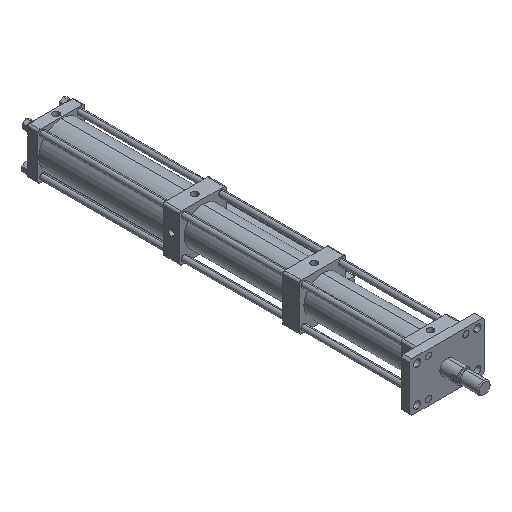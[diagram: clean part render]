
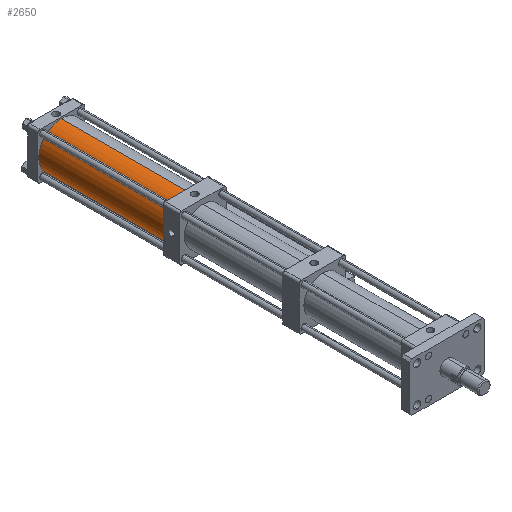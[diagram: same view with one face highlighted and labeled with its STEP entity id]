
A CAD part, isometric view. The second image highlights one B-rep face of the part: STEP entity #2650.
In plain terms, the highlighted cylindrical face has radius 54 mm (diameter 108 mm), a partial arc.
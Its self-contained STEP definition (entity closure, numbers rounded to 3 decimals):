
#6 = CARTESIAN_POINT ( 'NONE',  ( 0., 929.002, 52.362 ) ) ;
#86 = DIRECTION ( 'NONE',  ( 0., 0., -1. ) ) ;
#181 = CARTESIAN_POINT ( 'NONE',  ( 0., 929.002, 52.362 ) ) ;
#551 = ORIENTED_EDGE ( 'NONE', *, *, #6722, .F. ) ;
#654 = VERTEX_POINT ( 'NONE', #2735 ) ;
#665 = ORIENTED_EDGE ( 'NONE', *, *, #1181, .F. ) ;
#706 = DIRECTION ( 'NONE',  ( 0., -1., 0. ) ) ;
#803 = DIRECTION ( 'NONE',  ( 0., 1., 0. ) ) ;
#1070 = CIRCLE ( 'NONE', #7498, 54. ) ;
#1181 = EDGE_CURVE ( 'NONE', #2335, #654, #5177, .T. ) ;
#2011 = CIRCLE ( 'NONE', #6810, 54. ) ;
#2320 = VERTEX_POINT ( 'NONE', #3036 ) ;
#2335 = VERTEX_POINT ( 'NONE', #6 ) ;
#2345 = EDGE_CURVE ( 'NONE', #2320, #5398, #6083, .T. ) ;
#2452 = CARTESIAN_POINT ( 'NONE',  ( 0., 929.002, -1.638 ) ) ;
#2477 = AXIS2_PLACEMENT_3D ( 'NONE', #4377, #706, #86 ) ;
#2650 = ADVANCED_FACE ( 'NONE', ( #5994 ), #4183, .T. ) ;
#2735 = CARTESIAN_POINT ( 'NONE',  ( 0., 628.002, 52.362 ) ) ;
#3036 = CARTESIAN_POINT ( 'NONE',  ( 0., 929.002, -55.638 ) ) ;
#3077 = DIRECTION ( 'NONE',  ( 0., 0., 1. ) ) ;
#3529 = VECTOR ( 'NONE', #6942, 1000. ) ;
#3711 = DIRECTION ( 'NONE',  ( 0., -1., 0. ) ) ;
#4183 = CYLINDRICAL_SURFACE ( 'NONE', #2477, 54. ) ;
#4377 = CARTESIAN_POINT ( 'NONE',  ( 0., 929.002, -1.638 ) ) ;
#4393 = CARTESIAN_POINT ( 'NONE',  ( 0., 628.002, -55.638 ) ) ;
#4472 = CARTESIAN_POINT ( 'NONE',  ( 0., 628.002, -1.638 ) ) ;
#4492 = VECTOR ( 'NONE', #3711, 1000. ) ;
#4997 = EDGE_LOOP ( 'NONE', ( #665, #551, #7275, #6139 ) ) ;
#5078 = DIRECTION ( 'NONE',  ( 0., 0., 1. ) ) ;
#5177 = LINE ( 'NONE', #181, #3529 ) ;
#5398 = VERTEX_POINT ( 'NONE', #4393 ) ;
#5994 = FACE_OUTER_BOUND ( 'NONE', #4997, .T. ) ;
#6083 = LINE ( 'NONE', #6142, #4492 ) ;
#6139 = ORIENTED_EDGE ( 'NONE', *, *, #6880, .T. ) ;
#6142 = CARTESIAN_POINT ( 'NONE',  ( 0., 929.002, -55.638 ) ) ;
#6722 = EDGE_CURVE ( 'NONE', #2320, #2335, #2011, .T. ) ;
#6751 = DIRECTION ( 'NONE',  ( 0., 1., 0. ) ) ;
#6810 = AXIS2_PLACEMENT_3D ( 'NONE', #2452, #6751, #3077 ) ;
#6880 = EDGE_CURVE ( 'NONE', #5398, #654, #1070, .T. ) ;
#6942 = DIRECTION ( 'NONE',  ( 0., -1., 0. ) ) ;
#7275 = ORIENTED_EDGE ( 'NONE', *, *, #2345, .T. ) ;
#7498 = AXIS2_PLACEMENT_3D ( 'NONE', #4472, #803, #5078 ) ;
